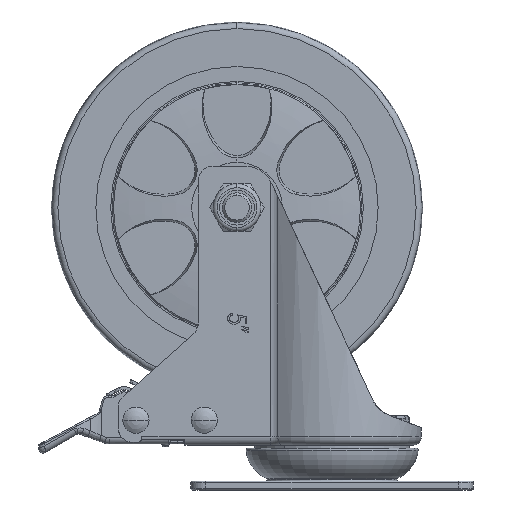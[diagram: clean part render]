
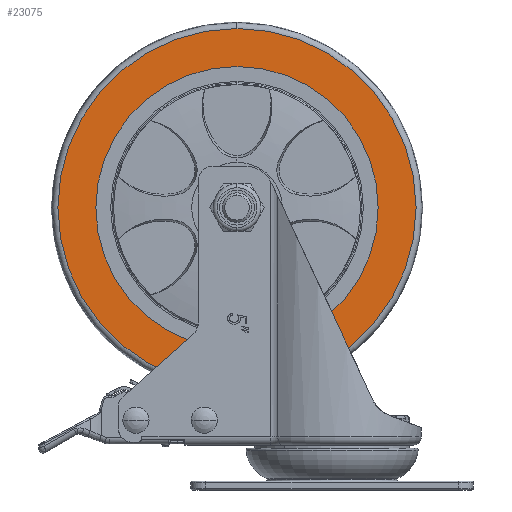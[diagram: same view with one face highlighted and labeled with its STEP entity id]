
A CAD part, front view. The second image highlights one B-rep face of the part: STEP entity #23075.
In plain terms, the highlighted planar face has unit normal (0, -1, 0).
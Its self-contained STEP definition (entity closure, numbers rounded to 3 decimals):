
#448 = CARTESIAN_POINT ( 'NONE',  ( 0., -16.5, 47.5 ) ) ;
#497 = AXIS2_PLACEMENT_3D ( 'NONE', #506, #18079, #35270 ) ;
#506 = CARTESIAN_POINT ( 'NONE',  ( 0., -16.5, 0. ) ) ;
#1513 = ORIENTED_EDGE ( 'NONE', *, *, #33823, .T. ) ;
#2759 = CARTESIAN_POINT ( 'NONE',  ( 0., -16.5, -60.267 ) ) ;
#3760 = EDGE_CURVE ( 'NONE', #29725, #4280, #11031, .T. ) ;
#3992 = AXIS2_PLACEMENT_3D ( 'NONE', #37287, #25490, #4863 ) ;
#4280 = VERTEX_POINT ( 'NONE', #2759 ) ;
#4442 = DIRECTION ( 'NONE',  ( 0., -1., 0. ) ) ;
#4594 = EDGE_CURVE ( 'NONE', #11023, #31867, #35382, .T. ) ;
#4810 = DIRECTION ( 'NONE',  ( 0., 0., -1. ) ) ;
#4863 = DIRECTION ( 'NONE',  ( 0., 0., -1. ) ) ;
#7385 = DIRECTION ( 'NONE',  ( 0., 0., -1. ) ) ;
#7880 = PLANE ( 'NONE',  #9453 ) ;
#8463 = CARTESIAN_POINT ( 'NONE',  ( 0., -16.5, 0. ) ) ;
#9453 = AXIS2_PLACEMENT_3D ( 'NONE', #22112, #4442, #7385 ) ;
#11023 = VERTEX_POINT ( 'NONE', #448 ) ;
#11031 = CIRCLE ( 'NONE', #25927, 60.267 ) ;
#11100 = CARTESIAN_POINT ( 'NONE',  ( 0., -16.5, 0. ) ) ;
#16808 = DIRECTION ( 'NONE',  ( 0., -1., 0. ) ) ;
#18079 = DIRECTION ( 'NONE',  ( 0., -1., 0. ) ) ;
#19576 = FACE_BOUND ( 'NONE', #32031, .T. ) ;
#19966 = DIRECTION ( 'NONE',  ( 0., 0., -1. ) ) ;
#21392 = EDGE_CURVE ( 'NONE', #31867, #11023, #37503, .T. ) ;
#22112 = CARTESIAN_POINT ( 'NONE',  ( 47.5, -16.5, 0. ) ) ;
#23075 = ADVANCED_FACE ( 'NONE', ( #25566, #19576 ), #7880, .T. ) ;
#23619 = CARTESIAN_POINT ( 'NONE',  ( 0., -16.5, 60.267 ) ) ;
#24605 = ORIENTED_EDGE ( 'NONE', *, *, #4594, .F. ) ;
#24744 = CIRCLE ( 'NONE', #25791, 60.267 ) ;
#25490 = DIRECTION ( 'NONE',  ( 0., -1., 0. ) ) ;
#25566 = FACE_OUTER_BOUND ( 'NONE', #26139, .T. ) ;
#25791 = AXIS2_PLACEMENT_3D ( 'NONE', #11100, #16808, #4810 ) ;
#25927 = AXIS2_PLACEMENT_3D ( 'NONE', #8463, #32038, #19966 ) ;
#26139 = EDGE_LOOP ( 'NONE', ( #1513, #26765 ) ) ;
#26765 = ORIENTED_EDGE ( 'NONE', *, *, #3760, .T. ) ;
#27710 = ORIENTED_EDGE ( 'NONE', *, *, #21392, .F. ) ;
#29725 = VERTEX_POINT ( 'NONE', #23619 ) ;
#31867 = VERTEX_POINT ( 'NONE', #38036 ) ;
#32031 = EDGE_LOOP ( 'NONE', ( #27710, #24605 ) ) ;
#32038 = DIRECTION ( 'NONE',  ( 0., -1., 0. ) ) ;
#33823 = EDGE_CURVE ( 'NONE', #4280, #29725, #24744, .T. ) ;
#35270 = DIRECTION ( 'NONE',  ( 0., 0., -1. ) ) ;
#35382 = CIRCLE ( 'NONE', #497, 47.5 ) ;
#37287 = CARTESIAN_POINT ( 'NONE',  ( 0., -16.5, 0. ) ) ;
#37503 = CIRCLE ( 'NONE', #3992, 47.5 ) ;
#38036 = CARTESIAN_POINT ( 'NONE',  ( 0., -16.5, -47.5 ) ) ;
